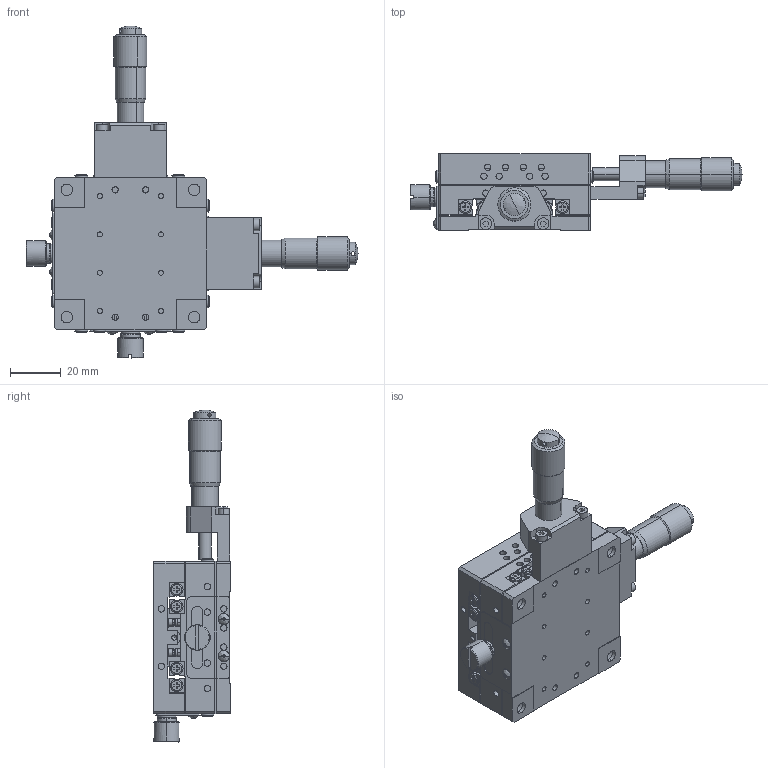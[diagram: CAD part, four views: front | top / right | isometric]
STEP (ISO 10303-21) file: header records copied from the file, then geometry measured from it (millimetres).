
FILE_DESCRIPTION (( 'STEP AP214' ), '1' );
FILE_NAME ('PHL-662CR.STEP', '2019-01-24T02:35:20', ( '微软用户' ), ( '微软中国' ), 'SwSTEP 2.0', 'SolidWorks 2015', '' );
FILE_SCHEMA (( 'AUTOMOTIVE_DESIGN' ));
Length unit declared in the file: millimetre
Products named in the file (2): PHL-662CR
Bounding box: 130.3 x 30 x 130.3 mm (x, y, z)
Volume: 108842.4 mm3; surface area: 73661 mm2
Topology: 89 solids, 89 shells, 2208 faces, 5307 edges, 3487 vertices
Faces by surface type: plane 1170, cylinder 858, cone 159, bspline 12, sphere 9
Entity records: 90879 total; most frequent: CARTESIAN_POINT 12230, DIRECTION 11463, ORIENTED_EDGE 10556, EDGE_CURVE 5278, AXIS2_PLACEMENT_3D 4171, VERTEX_POINT 3473, LINE 3121, VECTOR 3121
